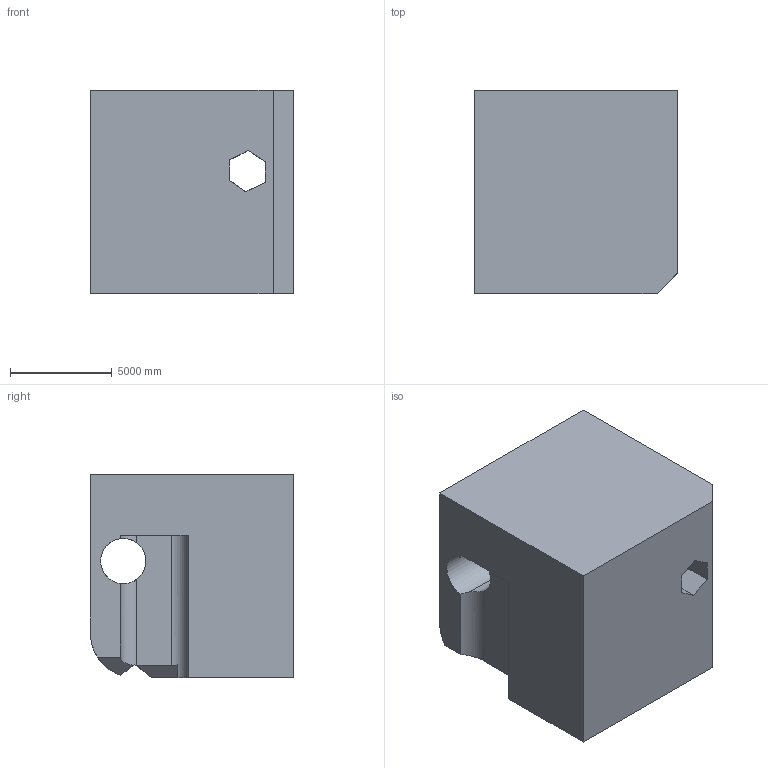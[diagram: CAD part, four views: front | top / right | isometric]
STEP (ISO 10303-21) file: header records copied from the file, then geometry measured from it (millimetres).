
FILE_DESCRIPTION (( 'STEP AP203' ), '1' );
FILE_NAME ('1774.STEP', '2022-08-19T12:46:35', ( 'user' ), ( '' ), 'SwSTEP 2.0', 'SolidWorks 2021', '' );
FILE_SCHEMA (( 'CONFIG_CONTROL_DESIGN' ));
Length unit declared in the file: centimetre
Products named in the file (1): 1774
Bounding box: 10000 x 10000 x 10000 mm (x, y, z)
Volume: 889927337760.6 mm3; surface area: 717043650.4 mm2
Topology: 1 solids, 1 shells, 36 faces, 105 edges, 70 vertices
Faces by surface type: plane 26, cylinder 10
Entity records: 1410 total; most frequent: CARTESIAN_POINT 393, ORIENTED_EDGE 210, DIRECTION 182, EDGE_CURVE 105, VERTEX_POINT 70, VECTOR 66, LINE 66, AXIS2_PLACEMENT_3D 58
